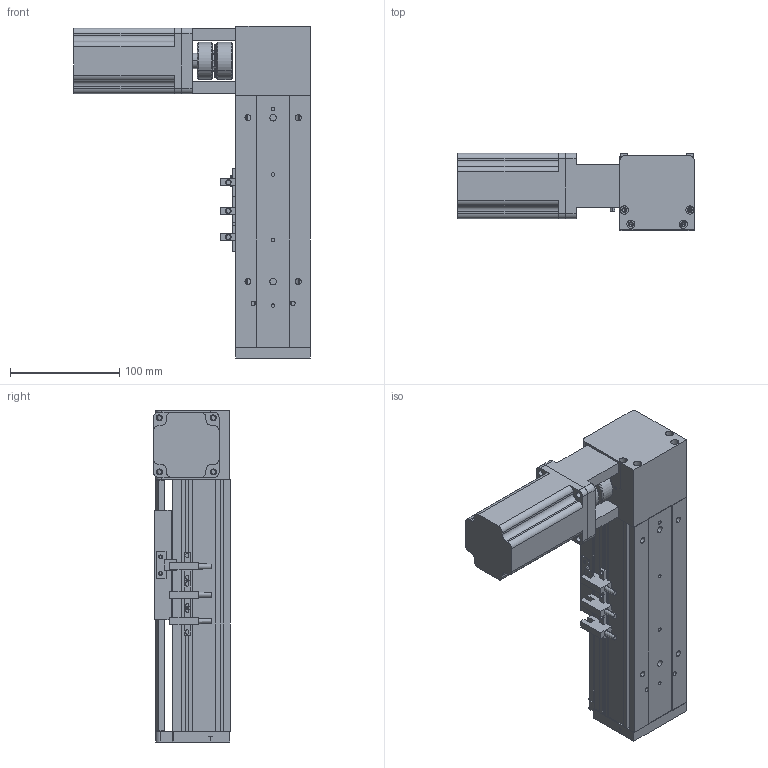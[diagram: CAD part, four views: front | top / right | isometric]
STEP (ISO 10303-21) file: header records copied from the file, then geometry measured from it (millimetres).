
FILE_DESCRIPTION (( 'STEP AP203' ), '1' );
FILE_NAME ('ML68-S50-BL.STEP', '2016-06-01T03:31:59', ( '微软用户' ), ( '微软中国' ), 'SwSTEP 2.0', 'SolidWorks 2014', '' );
FILE_SCHEMA (( 'CONFIG_CONTROL_DESIGN' ));
Length unit declared in the file: millimetre
Products named in the file (11): ML68-BL傷啣; 60換覜結え; ML68-菁釱^ML68-S50-BL; ML68傷啣; 換覜ん; ML68-奻裔^ML68-S50-BL; 三协电机MH201N2_預設; ML68雄赽釱; 联轴器（CS34X32-8X14）_預設; ML68-S50-BL; MS68-TS0204鎮湛嘐隅釱_蕼偞
Assembly tree (12 placements, depth 2):
  ML68-S50-BL
    ML68-BL傷啣
    60換覜結え
    ML68-菁釱^ML68-S50-BL
    ML68傷啣
    換覜ん  x3
    三协电机MH201N2_預設
    联轴器（CS34X32-8X14）_預設
    MS68-TS0204鎮湛嘐隅釱_蕼偞
    ML68-奻裔^ML68-S50-BL
    ML68雄赽釱
Bounding box: 216.5 x 70.5 x 304 mm (x, y, z)
Volume: 1026194.7 mm3; surface area: 280700.3 mm2
Topology: 13 solids, 13 shells, 765 faces, 2069 edges, 1309 vertices
Faces by surface type: cylinder 343, plane 322, cone 96, bspline 4
Entity records: 23640 total; most frequent: CARTESIAN_POINT 4294, DIRECTION 3929, ORIENTED_EDGE 3662, EDGE_CURVE 1831, AXIS2_PLACEMENT_3D 1426, VERTEX_POINT 1197, VECTOR 1077, LINE 1077
